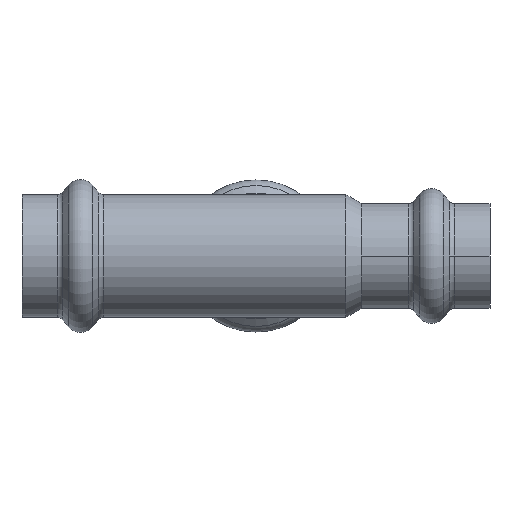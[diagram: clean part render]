
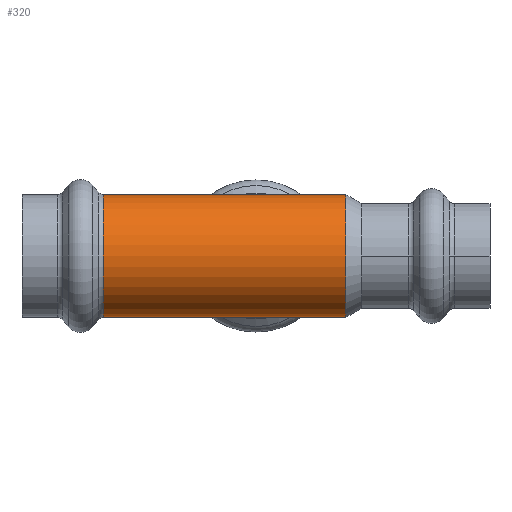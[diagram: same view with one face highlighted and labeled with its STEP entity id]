
A CAD part, front view. The second image highlights one B-rep face of the part: STEP entity #320.
In plain terms, the highlighted cylindrical face has radius 10.5 mm (diameter 21 mm), a partial arc.
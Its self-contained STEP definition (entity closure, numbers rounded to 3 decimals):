
#117 = DIRECTION ( 'NONE',  ( 0., 0., 1. ) ) ;
#320 = ADVANCED_FACE ( 'NONE', ( #1283 ), #1610, .T. ) ;
#342 = CARTESIAN_POINT ( 'NONE',  ( 15.36, 0., 10.5 ) ) ;
#394 = CARTESIAN_POINT ( 'NONE',  ( -58.611, 0., 0. ) ) ;
#525 = ORIENTED_EDGE ( 'NONE', *, *, #1244, .T. ) ;
#676 = DIRECTION ( 'NONE',  ( 1., 0., 0. ) ) ;
#1010 = EDGE_LOOP ( 'NONE', ( #2892, #1481, #525, #2412 ) ) ;
#1158 = VECTOR ( 'NONE', #1163, 1000. ) ;
#1163 = DIRECTION ( 'NONE',  ( -1., 0., 0. ) ) ;
#1244 = EDGE_CURVE ( 'NONE', #2526, #2344, #3713, .T. ) ;
#1278 = CARTESIAN_POINT ( 'NONE',  ( -26.123, 0., 10.5 ) ) ;
#1283 = FACE_OUTER_BOUND ( 'NONE', #1010, .T. ) ;
#1313 = CARTESIAN_POINT ( 'NONE',  ( -58.611, 0., 10.5 ) ) ;
#1328 = EDGE_CURVE ( 'NONE', #2526, #2188, #3384, .T. ) ;
#1363 = AXIS2_PLACEMENT_3D ( 'NONE', #394, #2806, #3158 ) ;
#1481 = ORIENTED_EDGE ( 'NONE', *, *, #1328, .F. ) ;
#1610 = CYLINDRICAL_SURFACE ( 'NONE', #1363, 10.5 ) ;
#1841 = CARTESIAN_POINT ( 'NONE',  ( -58.611, 0., -10.5 ) ) ;
#2176 = DIRECTION ( 'NONE',  ( 1., 0., 0. ) ) ;
#2188 = VERTEX_POINT ( 'NONE', #2505 ) ;
#2344 = VERTEX_POINT ( 'NONE', #1278 ) ;
#2404 = CIRCLE ( 'NONE', #3573, 10.5 ) ;
#2412 = ORIENTED_EDGE ( 'NONE', *, *, #4119, .T. ) ;
#2505 = CARTESIAN_POINT ( 'NONE',  ( 15.36, 0., -10.5 ) ) ;
#2526 = VERTEX_POINT ( 'NONE', #342 ) ;
#2750 = CARTESIAN_POINT ( 'NONE',  ( 15.36, 0., 0. ) ) ;
#2805 = AXIS2_PLACEMENT_3D ( 'NONE', #2750, #676, #3087 ) ;
#2806 = DIRECTION ( 'NONE',  ( -1., 0., 0. ) ) ;
#2892 = ORIENTED_EDGE ( 'NONE', *, *, #4210, .F. ) ;
#2984 = LINE ( 'NONE', #1841, #1158 ) ;
#3087 = DIRECTION ( 'NONE',  ( 0., 0., 1. ) ) ;
#3158 = DIRECTION ( 'NONE',  ( 0., 0., 1. ) ) ;
#3384 = CIRCLE ( 'NONE', #2805, 10.5 ) ;
#3573 = AXIS2_PLACEMENT_3D ( 'NONE', #4248, #2176, #117 ) ;
#3586 = CARTESIAN_POINT ( 'NONE',  ( -26.123, 0., -10.5 ) ) ;
#3602 = VECTOR ( 'NONE', #4070, 1000. ) ;
#3713 = LINE ( 'NONE', #1313, #3602 ) ;
#4070 = DIRECTION ( 'NONE',  ( -1., 0., 0. ) ) ;
#4119 = EDGE_CURVE ( 'NONE', #2344, #4265, #2404, .T. ) ;
#4210 = EDGE_CURVE ( 'NONE', #2188, #4265, #2984, .T. ) ;
#4248 = CARTESIAN_POINT ( 'NONE',  ( -26.123, 0., 0. ) ) ;
#4265 = VERTEX_POINT ( 'NONE', #3586 ) ;
